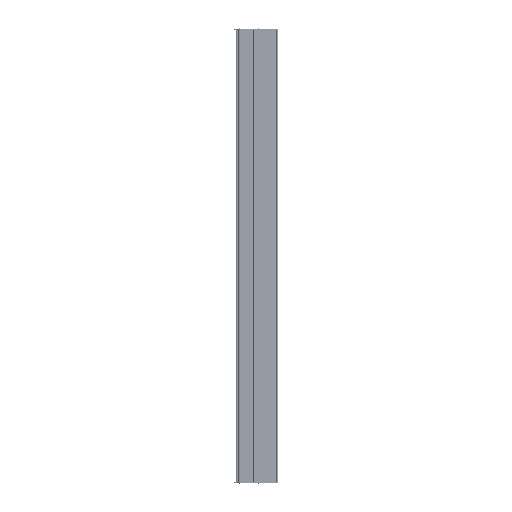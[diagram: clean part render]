
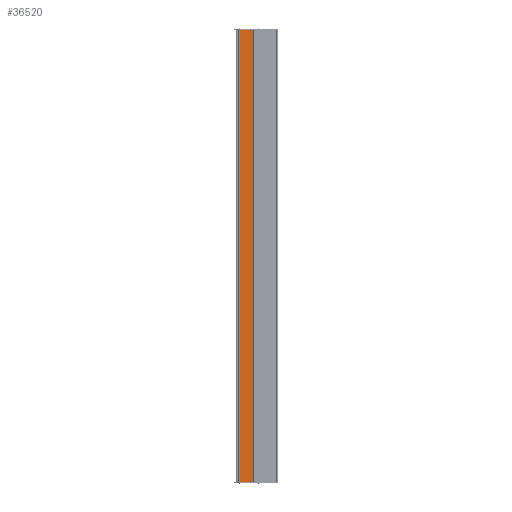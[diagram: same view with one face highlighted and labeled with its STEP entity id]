
A CAD part, left-side view. The second image highlights one B-rep face of the part: STEP entity #36520.
In plain terms, the highlighted planar face has unit normal (-1, 0, 0).
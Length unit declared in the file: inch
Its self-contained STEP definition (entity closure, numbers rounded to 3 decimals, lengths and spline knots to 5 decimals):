
#4631 = DIRECTION ( 'NONE',  ( 0., -1., 0. ) ) ;
#8748 = ORIENTED_EDGE ( 'NONE', *, *, #76282, .T. ) ;
#9263 = EDGE_CURVE ( 'NONE', #47964, #110605, #24838, .T. ) ;
#13606 = CARTESIAN_POINT ( 'NONE',  ( -1.25984, 0.36417, -48. ) ) ;
#15063 = LINE ( 'NONE', #32923, #89681 ) ;
#16762 = VERTEX_POINT ( 'NONE', #55394 ) ;
#22549 = LINE ( 'NONE', #13606, #30796 ) ;
#24218 = AXIS2_PLACEMENT_3D ( 'NONE', #108484, #110238, #37006 ) ;
#24838 = LINE ( 'NONE', #102467, #105717 ) ;
#30796 = VECTOR ( 'NONE', #58855, 39.37008 ) ;
#32923 = CARTESIAN_POINT ( 'NONE',  ( -1.25984, -1.07475, -48. ) ) ;
#36520 = ADVANCED_FACE ( 'NONE', ( #73913 ), #82268, .T. ) ;
#37006 = DIRECTION ( 'NONE',  ( 0., 0., 1. ) ) ;
#37234 = CARTESIAN_POINT ( 'NONE',  ( -1.25984, -1.07475, 0. ) ) ;
#38400 = DIRECTION ( 'NONE',  ( 0., -1., 0. ) ) ;
#40916 = VECTOR ( 'NONE', #38400, 39.37008 ) ;
#46750 = LINE ( 'NONE', #37234, #40916 ) ;
#47964 = VERTEX_POINT ( 'NONE', #82101 ) ;
#55394 = CARTESIAN_POINT ( 'NONE',  ( -1.25984, 0.36417, 0. ) ) ;
#58855 = DIRECTION ( 'NONE',  ( 0., 0., 1. ) ) ;
#62153 = EDGE_LOOP ( 'NONE', ( #66422, #84935, #70559, #8748 ) ) ;
#62659 = DIRECTION ( 'NONE',  ( 0., 0., 1. ) ) ;
#63079 = CARTESIAN_POINT ( 'NONE',  ( -1.25984, -1.07475, 0. ) ) ;
#65371 = EDGE_CURVE ( 'NONE', #16762, #92243, #46750, .T. ) ;
#66422 = ORIENTED_EDGE ( 'NONE', *, *, #65371, .F. ) ;
#70559 = ORIENTED_EDGE ( 'NONE', *, *, #9263, .T. ) ;
#73913 = FACE_OUTER_BOUND ( 'NONE', #62153, .T. ) ;
#74198 = CARTESIAN_POINT ( 'NONE',  ( -1.25984, -1.07475, -48. ) ) ;
#76282 = EDGE_CURVE ( 'NONE', #110605, #92243, #15063, .T. ) ;
#82101 = CARTESIAN_POINT ( 'NONE',  ( -1.25984, 0.36417, -48. ) ) ;
#82268 = PLANE ( 'NONE',  #24218 ) ;
#84935 = ORIENTED_EDGE ( 'NONE', *, *, #114357, .F. ) ;
#89681 = VECTOR ( 'NONE', #62659, 39.37008 ) ;
#92243 = VERTEX_POINT ( 'NONE', #63079 ) ;
#102467 = CARTESIAN_POINT ( 'NONE',  ( -1.25984, -1.07475, -48. ) ) ;
#105717 = VECTOR ( 'NONE', #4631, 39.37008 ) ;
#108484 = CARTESIAN_POINT ( 'NONE',  ( -1.25984, -1.07475, -48. ) ) ;
#110238 = DIRECTION ( 'NONE',  ( -1., 0., 0. ) ) ;
#110605 = VERTEX_POINT ( 'NONE', #74198 ) ;
#114357 = EDGE_CURVE ( 'NONE', #47964, #16762, #22549, .T. ) ;
